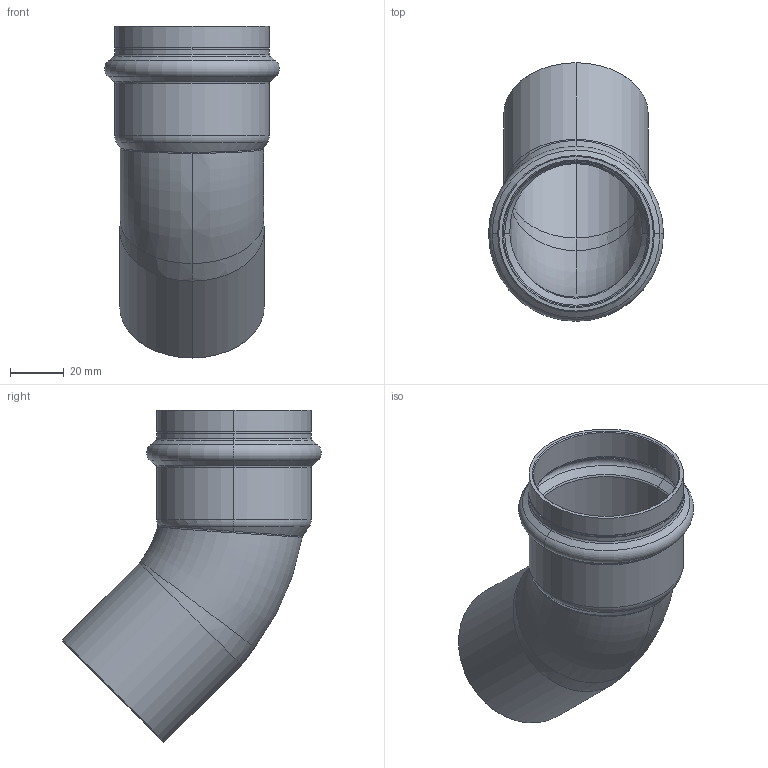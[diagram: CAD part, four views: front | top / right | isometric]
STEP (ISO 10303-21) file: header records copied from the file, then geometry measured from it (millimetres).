
FILE_DESCRIPTION (( 'STEP AP203' ), '1' );
FILE_NAME ('SP5040 Ø54.STEP', '2017-04-24T08:11:20', ( '' ), ( '' ), 'SwSTEP 2.0', 'SolidWorks 2016', '' );
FILE_SCHEMA (( 'CONFIG_CONTROL_DESIGN' ));
Length unit declared in the file: millimetre
Products named in the file (1): SP5040 ﾘ54
Bounding box: 65.4 x 96.76 x 124.06 mm (x, y, z)
Volume: 39543.9 mm3; surface area: 42846.6 mm2
Topology: 1 solids, 1 shells, 64 faces, 134 edges, 74 vertices
Faces by surface type: torus 20, cone 17, cylinder 16, bspline 6, plane 5
Entity records: 2691 total; most frequent: CARTESIAN_POINT 1249, DIRECTION 318, ORIENTED_EDGE 268, AXIS2_PLACEMENT_3D 143, EDGE_CURVE 134, CIRCLE 84, VERTEX_POINT 74, EDGE_LOOP 68
